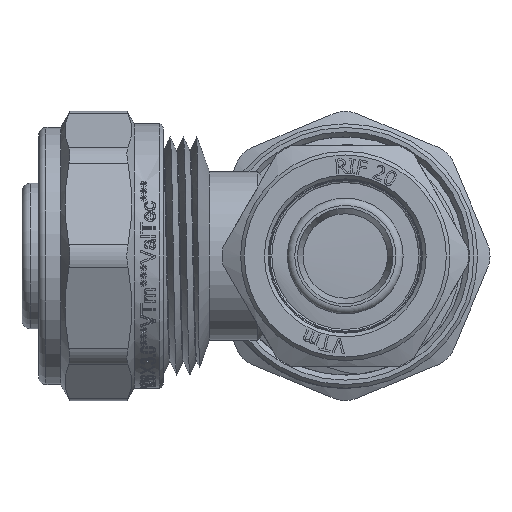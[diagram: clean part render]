
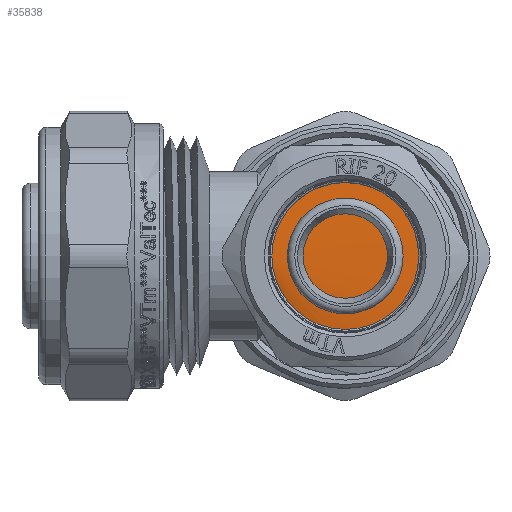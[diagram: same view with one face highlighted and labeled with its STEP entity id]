
A CAD part, left-side view. The second image highlights one B-rep face of the part: STEP entity #35838.
In plain terms, the highlighted cylindrical face has radius 11.5 mm (diameter 23 mm), a full revolution.
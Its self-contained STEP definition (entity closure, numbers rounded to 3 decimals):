
#2902=FACE_OUTER_BOUND('',#4932,.T.);
#4932=EDGE_LOOP('',(#24085,#24086,#24087));
#7135=B_SPLINE_CURVE_WITH_KNOTS('',3,(#45955,#45956,#45957,#45958,#45959,
#45960,#45961,#45962,#45963,#45964,#45965,#45966,#45967,#45968,#45969,#45970,
#45971),.UNSPECIFIED.,.F.,.F.,(4,1,1,1,1,1,1,1,1,1,1,1,1,1,4),(12.566,
12.688,13.183,13.679,14.174,14.669,
15.164,15.66,16.155,16.65,17.146,
17.641,18.136,18.632,18.85),
 .UNSPECIFIED.);
#9541=LINE('',#45758,#11966);
#9549=LINE('',#45954,#11974);
#11966=VECTOR('',#39690,11.5);
#11974=VECTOR('',#39720,11.5);
#14392=VERTEX_POINT('',#45756);
#14393=VERTEX_POINT('',#45757);
#14408=VERTEX_POINT('',#45953);
#18290=EDGE_CURVE('',#14392,#14393,#9541,.T.);
#18313=EDGE_CURVE('',#14408,#14393,#9549,.T.);
#18314=EDGE_CURVE('',#14408,#14392,#7135,.T.);
#24085=ORIENTED_EDGE('',*,*,#18290,.T.);
#24086=ORIENTED_EDGE('',*,*,#18313,.F.);
#24087=ORIENTED_EDGE('',*,*,#18314,.T.);
#35590=CYLINDRICAL_SURFACE('',#37896,11.5);
#35838=ADVANCED_FACE('',(#2902),#35590,.T.);
#37896=AXIS2_PLACEMENT_3D('',#45952,#39718,#39719);
#39690=DIRECTION('',(-1.,0.,0.));
#39718=DIRECTION('center_axis',(-1.,0.,0.));
#39719=DIRECTION('ref_axis',(0.,-1.,0.));
#39720=DIRECTION('',(1.,0.,0.));
#45756=CARTESIAN_POINT('',(-26.,11.5,0.));
#45757=CARTESIAN_POINT('',(-27.7,11.5,0.));
#45758=CARTESIAN_POINT('',(-15.25,11.5,0.));
#45952=CARTESIAN_POINT('Origin',(-15.25,0.,
0.));
#45953=CARTESIAN_POINT('',(-27.8,11.5,0.));
#45954=CARTESIAN_POINT('',(-15.25,11.5,0.));
#45955=CARTESIAN_POINT('Ctrl Pts',(-27.8,11.5,0.));
#45956=CARTESIAN_POINT('Ctrl Pts',(-27.788,11.5,0.466));
#45957=CARTESIAN_POINT('Ctrl Pts',(-27.729,11.359,2.83));
#45958=CARTESIAN_POINT('Ctrl Pts',(-27.623,9.773,6.93));
#45959=CARTESIAN_POINT('Ctrl Pts',(-27.481,5.305,10.743));
#45960=CARTESIAN_POINT('Ctrl Pts',(-27.339,-0.439,
11.973));
#45961=CARTESIAN_POINT('Ctrl Pts',(-27.198,-6.077,10.325));
#45962=CARTESIAN_POINT('Ctrl Pts',(-27.056,-10.254,
6.196));
#45963=CARTESIAN_POINT('Ctrl Pts',(-26.914,-11.967,
0.577));
#45964=CARTESIAN_POINT('Ctrl Pts',(-26.772,-10.803,
-5.18));
#45965=CARTESIAN_POINT('Ctrl Pts',(-26.63,-7.043,
-9.692));
#45966=CARTESIAN_POINT('Ctrl Pts',(-26.488,-1.589,-11.875));
#45967=CARTESIAN_POINT('Ctrl Pts',(-26.346,4.246,-11.203));
#45968=CARTESIAN_POINT('Ctrl Pts',(-26.204,9.061,-7.839));
#45969=CARTESIAN_POINT('Ctrl Pts',(-26.089,11.205,-3.57));
#45970=CARTESIAN_POINT('Ctrl Pts',(-26.021,11.499,-0.836));
#45971=CARTESIAN_POINT('Ctrl Pts',(-26.,11.499,0.));
